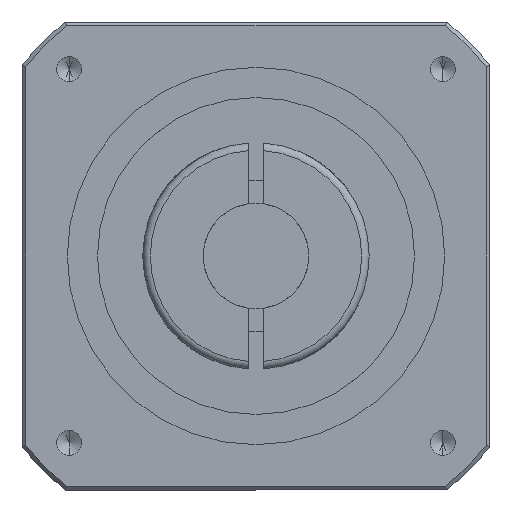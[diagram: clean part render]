
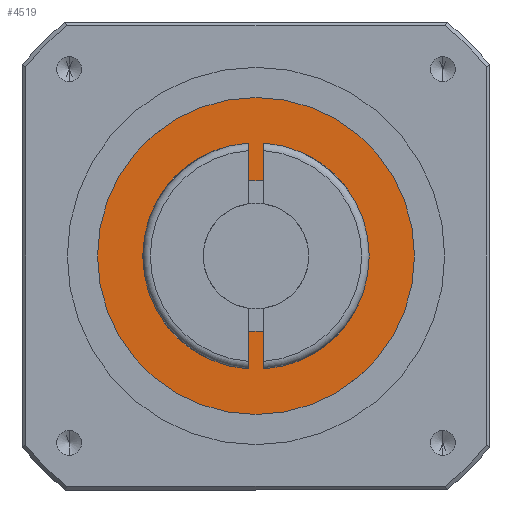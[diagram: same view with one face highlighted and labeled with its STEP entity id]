
A CAD part, front view. The second image highlights one B-rep face of the part: STEP entity #4519.
In plain terms, the highlighted planar face has unit normal (0, -1, 0).
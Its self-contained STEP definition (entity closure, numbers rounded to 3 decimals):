
#693 = CARTESIAN_POINT ( 'NONE',  ( 0., -22.5, -10. ) ) ;
#748 = CARTESIAN_POINT ( 'NONE',  ( 0., -22.5, 10. ) ) ;
#798 = CARTESIAN_POINT ( 'NONE',  ( 0., -22.5, 21. ) ) ;
#1115 = AXIS2_PLACEMENT_3D ( 'NONE', #2539, #2540, #2541 ) ;
#1119 = AXIS2_PLACEMENT_3D ( 'NONE', #3892, #3893, #3894 ) ;
#1128 = AXIS2_PLACEMENT_3D ( 'NONE', #4061, #4062, #4063 ) ;
#1129 = AXIS2_PLACEMENT_3D ( 'NONE', #4066, #4067, #4068 ) ;
#1157 = AXIS2_PLACEMENT_3D ( 'NONE', #3135, #3140, #3141 ) ;
#1303 = CARTESIAN_POINT ( 'NONE',  ( 0., -22.5, -21. ) ) ;
#2539 = CARTESIAN_POINT ( 'NONE',  ( 0., -22.5, 0. ) ) ;
#2540 = DIRECTION ( 'NONE',  ( 0., 1., 0. ) ) ;
#2541 = DIRECTION ( 'NONE',  ( 0., 0., 1. ) ) ;
#3134 = PLANE ( 'NONE',  #1157 ) ;
#3135 = CARTESIAN_POINT ( 'NONE',  ( 0., -22.5, 0. ) ) ;
#3140 = DIRECTION ( 'NONE',  ( 0., -1., 0. ) ) ;
#3141 = DIRECTION ( 'NONE',  ( 0., 0., -1. ) ) ;
#3550 = EDGE_CURVE ( 'NONE', #5284, #5229, #6369, .T. ) ;
#3561 = EDGE_CURVE ( 'NONE', #5334, #5055, #6388, .T. ) ;
#3594 = EDGE_CURVE ( 'NONE', #5055, #5334, #6428, .T. ) ;
#3595 = EDGE_CURVE ( 'NONE', #5229, #5284, #6429, .T. ) ;
#3892 = CARTESIAN_POINT ( 'NONE',  ( 0., -22.5, 0. ) ) ;
#3893 = DIRECTION ( 'NONE',  ( 0., -1., 0. ) ) ;
#3894 = DIRECTION ( 'NONE',  ( 0., 0., -1. ) ) ;
#4061 = CARTESIAN_POINT ( 'NONE',  ( 0., -22.5, 0. ) ) ;
#4062 = DIRECTION ( 'NONE',  ( 0., -1., 0. ) ) ;
#4063 = DIRECTION ( 'NONE',  ( 0., 0., -1. ) ) ;
#4066 = CARTESIAN_POINT ( 'NONE',  ( 0., -22.5, 0. ) ) ;
#4067 = DIRECTION ( 'NONE',  ( 0., 1., 0. ) ) ;
#4068 = DIRECTION ( 'NONE',  ( 0., 0., 1. ) ) ;
#4519 = ADVANCED_FACE ( 'NONE', ( #6510, #6513 ), #3134, .T. ) ;
#4911 = ORIENTED_EDGE ( 'NONE', *, *, #3594, .T. ) ;
#4912 = ORIENTED_EDGE ( 'NONE', *, *, #3561, .T. ) ;
#4913 = ORIENTED_EDGE ( 'NONE', *, *, #3550, .T. ) ;
#4914 = ORIENTED_EDGE ( 'NONE', *, *, #3595, .T. ) ;
#5055 = VERTEX_POINT ( 'NONE', #1303 ) ;
#5229 = VERTEX_POINT ( 'NONE', #693 ) ;
#5284 = VERTEX_POINT ( 'NONE', #748 ) ;
#5334 = VERTEX_POINT ( 'NONE', #798 ) ;
#5691 = EDGE_LOOP ( 'NONE', ( #4913, #4914 ) ) ;
#5696 = EDGE_LOOP ( 'NONE', ( #4911, #4912 ) ) ;
#6369 = CIRCLE ( 'NONE', #1115, 10. ) ;
#6388 = CIRCLE ( 'NONE', #1119, 21. ) ;
#6428 = CIRCLE ( 'NONE', #1128, 21. ) ;
#6429 = CIRCLE ( 'NONE', #1129, 10. ) ;
#6510 = FACE_OUTER_BOUND ( 'NONE', #5696, .T. ) ;
#6513 = FACE_BOUND ( 'NONE', #5691, .T. ) ;
